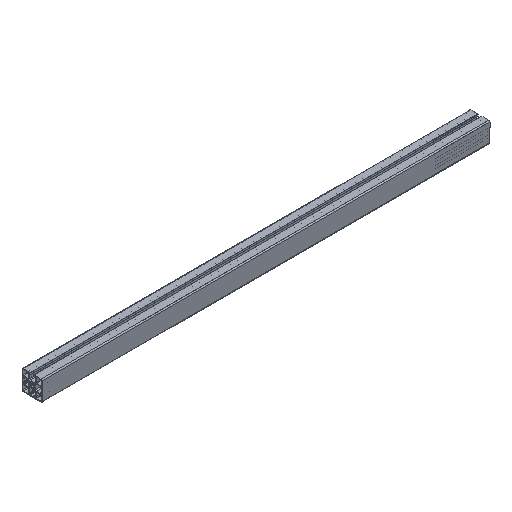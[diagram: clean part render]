
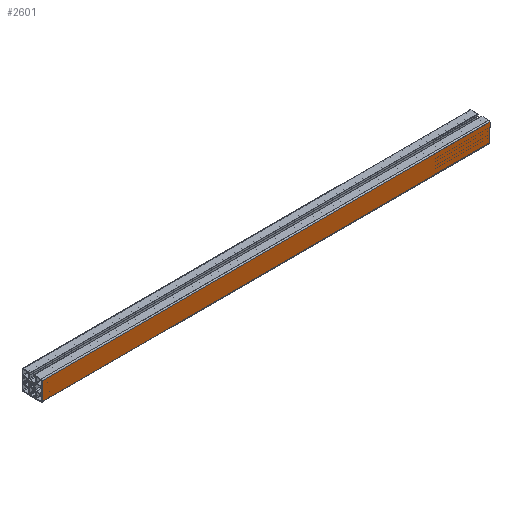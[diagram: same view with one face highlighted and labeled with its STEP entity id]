
A CAD part, isometric view. The second image highlights one B-rep face of the part: STEP entity #2601.
In plain terms, the highlighted planar face has unit normal (0, -1, 0).
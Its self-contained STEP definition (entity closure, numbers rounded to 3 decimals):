
#85 = EDGE_CURVE ( 'NONE', #1303, #2961, #3301, .T. ) ;
#195 = ORIENTED_EDGE ( 'NONE', *, *, #3230, .T. ) ;
#432 = ORIENTED_EDGE ( 'NONE', *, *, #85, .F. ) ;
#436 = ORIENTED_EDGE ( 'NONE', *, *, #4713, .F. ) ;
#453 = DIRECTION ( 'NONE',  ( 0., 0., 1. ) ) ;
#573 = DIRECTION ( 'NONE',  ( 0., 0., -1. ) ) ;
#598 = AXIS2_PLACEMENT_3D ( 'NONE', #2675, #3798, #453 ) ;
#728 = VECTOR ( 'NONE', #4623, 1000. ) ;
#796 = PLANE ( 'NONE',  #598 ) ;
#971 = VECTOR ( 'NONE', #573, 1000. ) ;
#1222 = CARTESIAN_POINT ( 'NONE',  ( 1000., -22.5, -20. ) ) ;
#1303 = VERTEX_POINT ( 'NONE', #2215 ) ;
#1386 = VERTEX_POINT ( 'NONE', #2946 ) ;
#1388 = LINE ( 'NONE', #2881, #971 ) ;
#1492 = LINE ( 'NONE', #3061, #3367 ) ;
#1636 = LINE ( 'NONE', #3481, #728 ) ;
#2016 = FACE_OUTER_BOUND ( 'NONE', #3653, .T. ) ;
#2076 = DIRECTION ( 'NONE',  ( -1., 0., 0. ) ) ;
#2215 = CARTESIAN_POINT ( 'NONE',  ( 1000., -22.5, -20. ) ) ;
#2273 = ORIENTED_EDGE ( 'NONE', *, *, #4193, .T. ) ;
#2601 = ADVANCED_FACE ( 'NONE', ( #2016 ), #796, .F. ) ;
#2675 = CARTESIAN_POINT ( 'NONE',  ( 1000., -22.5, 20. ) ) ;
#2711 = CARTESIAN_POINT ( 'NONE',  ( 1000., -22.5, 20. ) ) ;
#2881 = CARTESIAN_POINT ( 'NONE',  ( 1000., -22.5, 20. ) ) ;
#2946 = CARTESIAN_POINT ( 'NONE',  ( 0., -22.5, 20. ) ) ;
#2961 = VERTEX_POINT ( 'NONE', #3881 ) ;
#3061 = CARTESIAN_POINT ( 'NONE',  ( 1000., -22.5, 20. ) ) ;
#3230 = EDGE_CURVE ( 'NONE', #3265, #1386, #1492, .T. ) ;
#3265 = VERTEX_POINT ( 'NONE', #2711 ) ;
#3301 = LINE ( 'NONE', #1222, #4586 ) ;
#3367 = VECTOR ( 'NONE', #4848, 1000. ) ;
#3481 = CARTESIAN_POINT ( 'NONE',  ( 0., -22.5, 20. ) ) ;
#3653 = EDGE_LOOP ( 'NONE', ( #2273, #432, #436, #195 ) ) ;
#3798 = DIRECTION ( 'NONE',  ( 0., 1., 0. ) ) ;
#3881 = CARTESIAN_POINT ( 'NONE',  ( 0., -22.5, -20. ) ) ;
#4193 = EDGE_CURVE ( 'NONE', #1386, #2961, #1636, .T. ) ;
#4586 = VECTOR ( 'NONE', #2076, 1000. ) ;
#4623 = DIRECTION ( 'NONE',  ( 0., 0., -1. ) ) ;
#4713 = EDGE_CURVE ( 'NONE', #3265, #1303, #1388, .T. ) ;
#4848 = DIRECTION ( 'NONE',  ( -1., 0., 0. ) ) ;
